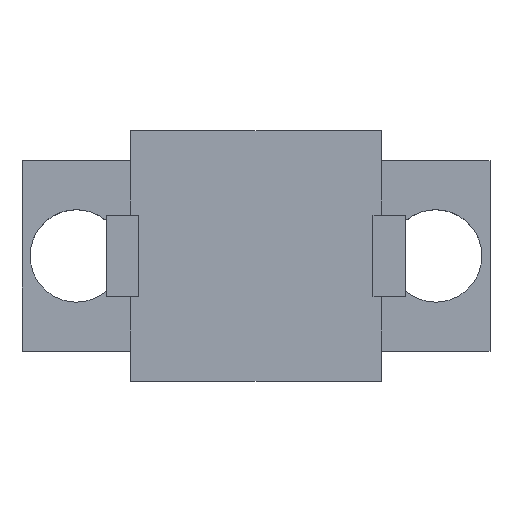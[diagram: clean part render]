
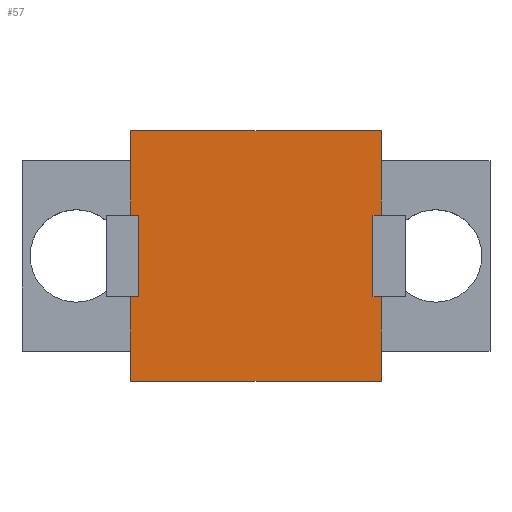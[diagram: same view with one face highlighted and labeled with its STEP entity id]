
A CAD part, top view. The second image highlights one B-rep face of the part: STEP entity #57.
In plain terms, the highlighted planar face has unit normal (0, 0, 1).
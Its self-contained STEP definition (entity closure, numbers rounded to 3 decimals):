
#21 = EDGE_CURVE('',#22,#24,#26,.T.);
#22 = VERTEX_POINT('',#23);
#23 = CARTESIAN_POINT('',(-4.6,-23.95,96.75));
#24 = VERTEX_POINT('',#25);
#25 = CARTESIAN_POINT('',(-4.6,-22.85,96.75));
#26 = LINE('',#27,#28);
#27 = CARTESIAN_POINT('',(-4.6,-23.95,96.75));
#28 = VECTOR('',#29,1.);
#29 = DIRECTION('',(0.,1.,0.));
#57 = ADVANCED_FACE('',(#58),#179,.T.);
#58 = FACE_BOUND('',#59,.T.);
#59 = EDGE_LOOP('',(#60,#61,#69,#77,#85,#93,#101,#109,#117,#125,#133,
    #141,#149,#157,#165,#173));
#60 = ORIENTED_EDGE('',*,*,#21,.F.);
#61 = ORIENTED_EDGE('',*,*,#62,.T.);
#62 = EDGE_CURVE('',#22,#63,#65,.T.);
#63 = VERTEX_POINT('',#64);
#64 = CARTESIAN_POINT('',(4.6,-23.95,96.75));
#65 = LINE('',#66,#67);
#66 = CARTESIAN_POINT('',(-4.6,-23.95,96.75));
#67 = VECTOR('',#68,1.);
#68 = DIRECTION('',(1.,0.,0.));
#69 = ORIENTED_EDGE('',*,*,#70,.T.);
#70 = EDGE_CURVE('',#63,#71,#73,.T.);
#71 = VERTEX_POINT('',#72);
#72 = CARTESIAN_POINT('',(4.6,-22.85,96.75));
#73 = LINE('',#74,#75);
#74 = CARTESIAN_POINT('',(4.6,-23.95,96.75));
#75 = VECTOR('',#76,1.);
#76 = DIRECTION('',(0.,1.,0.));
#77 = ORIENTED_EDGE('',*,*,#78,.T.);
#78 = EDGE_CURVE('',#71,#79,#81,.T.);
#79 = VERTEX_POINT('',#80);
#80 = CARTESIAN_POINT('',(4.6,-20.85,96.75));
#81 = LINE('',#82,#83);
#82 = CARTESIAN_POINT('',(4.6,-23.95,96.75));
#83 = VECTOR('',#84,1.);
#84 = DIRECTION('',(0.,1.,0.));
#85 = ORIENTED_EDGE('',*,*,#86,.T.);
#86 = EDGE_CURVE('',#79,#87,#89,.T.);
#87 = VERTEX_POINT('',#88);
#88 = CARTESIAN_POINT('',(4.3,-20.85,96.75));
#89 = LINE('',#90,#91);
#90 = CARTESIAN_POINT('',(-0.15,-20.85,96.75));
#91 = VECTOR('',#92,1.);
#92 = DIRECTION('',(-1.,0.,0.));
#93 = ORIENTED_EDGE('',*,*,#94,.T.);
#94 = EDGE_CURVE('',#87,#95,#97,.T.);
#95 = VERTEX_POINT('',#96);
#96 = CARTESIAN_POINT('',(4.3,-17.85,96.75));
#97 = LINE('',#98,#99);
#98 = CARTESIAN_POINT('',(4.3,-22.4,96.75));
#99 = VECTOR('',#100,1.);
#100 = DIRECTION('',(0.,1.,0.));
#101 = ORIENTED_EDGE('',*,*,#102,.F.);
#102 = EDGE_CURVE('',#103,#95,#105,.T.);
#103 = VERTEX_POINT('',#104);
#104 = CARTESIAN_POINT('',(4.6,-17.85,96.75));
#105 = LINE('',#106,#107);
#106 = CARTESIAN_POINT('',(-0.15,-17.85,96.75));
#107 = VECTOR('',#108,1.);
#108 = DIRECTION('',(-1.,0.,0.));
#109 = ORIENTED_EDGE('',*,*,#110,.T.);
#110 = EDGE_CURVE('',#103,#111,#113,.T.);
#111 = VERTEX_POINT('',#112);
#112 = CARTESIAN_POINT('',(4.6,-15.85,96.75));
#113 = LINE('',#114,#115);
#114 = CARTESIAN_POINT('',(4.6,-23.95,96.75));
#115 = VECTOR('',#116,1.);
#116 = DIRECTION('',(0.,1.,0.));
#117 = ORIENTED_EDGE('',*,*,#118,.T.);
#118 = EDGE_CURVE('',#111,#119,#121,.T.);
#119 = VERTEX_POINT('',#120);
#120 = CARTESIAN_POINT('',(4.6,-14.75,96.75));
#121 = LINE('',#122,#123);
#122 = CARTESIAN_POINT('',(4.6,-23.95,96.75));
#123 = VECTOR('',#124,1.);
#124 = DIRECTION('',(0.,1.,0.));
#125 = ORIENTED_EDGE('',*,*,#126,.F.);
#126 = EDGE_CURVE('',#127,#119,#129,.T.);
#127 = VERTEX_POINT('',#128);
#128 = CARTESIAN_POINT('',(-4.6,-14.75,96.75));
#129 = LINE('',#130,#131);
#130 = CARTESIAN_POINT('',(-4.6,-14.75,96.75));
#131 = VECTOR('',#132,1.);
#132 = DIRECTION('',(1.,0.,0.));
#133 = ORIENTED_EDGE('',*,*,#134,.F.);
#134 = EDGE_CURVE('',#135,#127,#137,.T.);
#135 = VERTEX_POINT('',#136);
#136 = CARTESIAN_POINT('',(-4.6,-15.85,96.75));
#137 = LINE('',#138,#139);
#138 = CARTESIAN_POINT('',(-4.6,-23.95,96.75));
#139 = VECTOR('',#140,1.);
#140 = DIRECTION('',(0.,1.,0.));
#141 = ORIENTED_EDGE('',*,*,#142,.F.);
#142 = EDGE_CURVE('',#143,#135,#145,.T.);
#143 = VERTEX_POINT('',#144);
#144 = CARTESIAN_POINT('',(-4.6,-17.85,96.75));
#145 = LINE('',#146,#147);
#146 = CARTESIAN_POINT('',(-4.6,-23.95,96.75));
#147 = VECTOR('',#148,1.);
#148 = DIRECTION('',(0.,1.,0.));
#149 = ORIENTED_EDGE('',*,*,#150,.F.);
#150 = EDGE_CURVE('',#151,#143,#153,.T.);
#151 = VERTEX_POINT('',#152);
#152 = CARTESIAN_POINT('',(-4.3,-17.85,96.75));
#153 = LINE('',#154,#155);
#154 = CARTESIAN_POINT('',(-5.05,-17.85,96.75));
#155 = VECTOR('',#156,1.);
#156 = DIRECTION('',(-1.,0.,0.));
#157 = ORIENTED_EDGE('',*,*,#158,.F.);
#158 = EDGE_CURVE('',#159,#151,#161,.T.);
#159 = VERTEX_POINT('',#160);
#160 = CARTESIAN_POINT('',(-4.3,-20.85,96.75));
#161 = LINE('',#162,#163);
#162 = CARTESIAN_POINT('',(-4.3,-22.4,96.75));
#163 = VECTOR('',#164,1.);
#164 = DIRECTION('',(0.,1.,0.));
#165 = ORIENTED_EDGE('',*,*,#166,.T.);
#166 = EDGE_CURVE('',#159,#167,#169,.T.);
#167 = VERTEX_POINT('',#168);
#168 = CARTESIAN_POINT('',(-4.6,-20.85,96.75));
#169 = LINE('',#170,#171);
#170 = CARTESIAN_POINT('',(-5.05,-20.85,96.75));
#171 = VECTOR('',#172,1.);
#172 = DIRECTION('',(-1.,0.,0.));
#173 = ORIENTED_EDGE('',*,*,#174,.F.);
#174 = EDGE_CURVE('',#24,#167,#175,.T.);
#175 = LINE('',#176,#177);
#176 = CARTESIAN_POINT('',(-4.6,-23.95,96.75));
#177 = VECTOR('',#178,1.);
#178 = DIRECTION('',(0.,1.,0.));
#179 = PLANE('',#180);
#180 = AXIS2_PLACEMENT_3D('',#181,#182,#183);
#181 = CARTESIAN_POINT('',(-4.6,-23.95,96.75));
#182 = DIRECTION('',(0.,0.,1.));
#183 = DIRECTION('',(1.,0.,0.));
